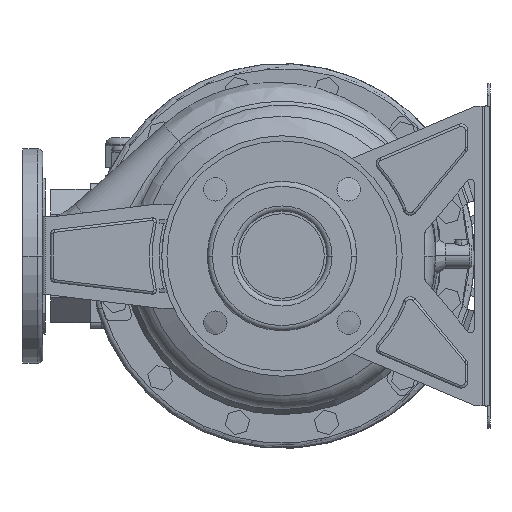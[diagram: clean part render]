
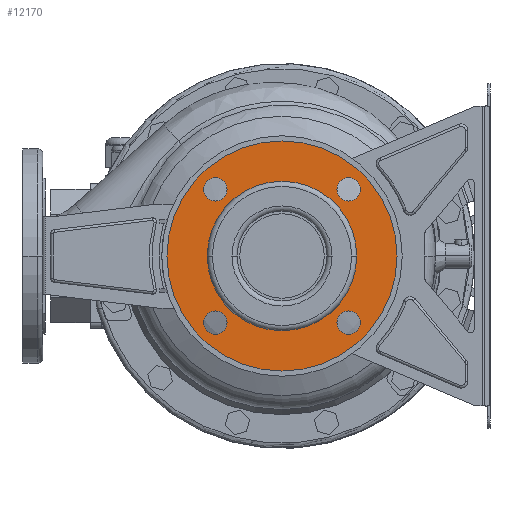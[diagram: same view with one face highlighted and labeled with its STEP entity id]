
A CAD part, left-side view. The second image highlights one B-rep face of the part: STEP entity #12170.
In plain terms, the highlighted planar face has unit normal (-1, 0, 0).
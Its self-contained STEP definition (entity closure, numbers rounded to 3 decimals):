
#11487=CARTESIAN_POINT('',(12.,0.,0.));
#11488=DIRECTION('',(1.,0.,0.));
#11489=DIRECTION('',(0.,-1.,0.));
#11490=AXIS2_PLACEMENT_3D('',#11487,#11488,#11489);
#11495=CARTESIAN_POINT('',(12.,0.,0.));
#11496=DIRECTION('',(1.,0.,0.));
#11497=DIRECTION('',(0.,1.,0.));
#11498=AXIS2_PLACEMENT_3D('',#11495,#11496,#11497);
#11503=CARTESIAN_POINT('',(12.,0.,0.));
#11504=DIRECTION('',(-1.,0.,0.));
#11505=DIRECTION('',(0.,-1.,0.));
#11506=AXIS2_PLACEMENT_3D('',#11503,#11504,#11505);
#11511=CARTESIAN_POINT('',(12.,0.,0.));
#11512=DIRECTION('',(-1.,0.,0.));
#11513=DIRECTION('',(0.,1.,0.));
#11514=AXIS2_PLACEMENT_3D('',#11511,#11512,#11513);
#11519=CARTESIAN_POINT('',(12.,-51.265,51.265));
#11520=DIRECTION('',(-1.,0.,0.));
#11521=DIRECTION('',(0.,-1.,0.));
#11522=AXIS2_PLACEMENT_3D('',#11519,#11520,#11521);
#11527=CARTESIAN_POINT('',(12.,-51.265,51.265));
#11528=DIRECTION('',(-1.,0.,0.));
#11529=DIRECTION('',(0.,1.,0.));
#11530=AXIS2_PLACEMENT_3D('',#11527,#11528,#11529);
#11535=CARTESIAN_POINT('',(12.,-51.265,-51.265));
#11536=DIRECTION('',(-1.,0.,0.));
#11537=DIRECTION('',(0.,0.,-1.));
#11538=AXIS2_PLACEMENT_3D('',#11535,#11536,#11537);
#11543=CARTESIAN_POINT('',(12.,-51.265,-51.265));
#11544=DIRECTION('',(-1.,0.,0.));
#11545=DIRECTION('',(0.,0.,1.));
#11546=AXIS2_PLACEMENT_3D('',#11543,#11544,#11545);
#11551=CARTESIAN_POINT('',(12.,51.265,-51.265));
#11552=DIRECTION('',(-1.,0.,0.));
#11553=DIRECTION('',(0.,1.,0.));
#11554=AXIS2_PLACEMENT_3D('',#11551,#11552,#11553);
#11559=CARTESIAN_POINT('',(12.,51.265,-51.265));
#11560=DIRECTION('',(-1.,0.,0.));
#11561=DIRECTION('',(0.,-1.,0.));
#11562=AXIS2_PLACEMENT_3D('',#11559,#11560,#11561);
#11567=CARTESIAN_POINT('',(12.,51.265,51.265));
#11568=DIRECTION('',(-1.,0.,0.));
#11569=DIRECTION('',(0.,0.,1.));
#11570=AXIS2_PLACEMENT_3D('',#11567,#11568,#11569);
#11575=CARTESIAN_POINT('',(12.,51.265,51.265));
#11576=DIRECTION('',(-1.,0.,0.));
#11577=DIRECTION('',(0.,0.,-1.));
#11578=AXIS2_PLACEMENT_3D('',#11575,#11576,#11577);
#11809=CARTESIAN_POINT('',(12.,88.5,0.));
#11810=VERTEX_POINT('',#11809);
#11811=CARTESIAN_POINT('',(12.,-88.5,0.));
#11812=VERTEX_POINT('',#11811);
#11813=CARTESIAN_POINT('',(12.,-57.5,0.));
#11814=CARTESIAN_POINT('',(12.,57.5,0.));
#11815=VERTEX_POINT('',#11813);
#11816=VERTEX_POINT('',#11814);
#11817=CARTESIAN_POINT('',(12.,-60.265,51.265));
#11818=CARTESIAN_POINT('',(12.,-42.265,51.265));
#11819=VERTEX_POINT('',#11817);
#11820=VERTEX_POINT('',#11818);
#11821=CARTESIAN_POINT('',(12.,-51.265,-60.265));
#11822=CARTESIAN_POINT('',(12.,-51.265,-42.265));
#11823=VERTEX_POINT('',#11821);
#11824=VERTEX_POINT('',#11822);
#11825=CARTESIAN_POINT('',(12.,60.265,-51.265));
#11826=CARTESIAN_POINT('',(12.,42.265,-51.265));
#11827=VERTEX_POINT('',#11825);
#11828=VERTEX_POINT('',#11826);
#11829=CARTESIAN_POINT('',(12.,51.265,60.265));
#11830=CARTESIAN_POINT('',(12.,51.265,42.265));
#11831=VERTEX_POINT('',#11829);
#11832=VERTEX_POINT('',#11830);
#12131=CARTESIAN_POINT('',(12.,0.,0.));
#12132=DIRECTION('',(1.,0.,0.));
#12133=DIRECTION('',(0.,-1.,0.));
#12134=AXIS2_PLACEMENT_3D('',#12131,#12132,#12133);
#12135=PLANE('',#12134);
#12136=ORIENTED_EDGE('',*,*,#12124,.T.);
#12137=ORIENTED_EDGE('',*,*,#12113,.T.);
#12138=EDGE_LOOP('',(#12136,#12137));
#12139=FACE_OUTER_BOUND('',#12138,.F.);
#12141=ORIENTED_EDGE('',*,*,#12140,.T.);
#12143=ORIENTED_EDGE('',*,*,#12142,.T.);
#12144=EDGE_LOOP('',(#12141,#12143));
#12145=FACE_BOUND('',#12144,.F.);
#12147=ORIENTED_EDGE('',*,*,#12146,.T.);
#12149=ORIENTED_EDGE('',*,*,#12148,.T.);
#12150=EDGE_LOOP('',(#12147,#12149));
#12151=FACE_BOUND('',#12150,.F.);
#12153=ORIENTED_EDGE('',*,*,#12152,.T.);
#12155=ORIENTED_EDGE('',*,*,#12154,.T.);
#12156=EDGE_LOOP('',(#12153,#12155));
#12157=FACE_BOUND('',#12156,.F.);
#12159=ORIENTED_EDGE('',*,*,#12158,.T.);
#12161=ORIENTED_EDGE('',*,*,#12160,.T.);
#12162=EDGE_LOOP('',(#12159,#12161));
#12163=FACE_BOUND('',#12162,.F.);
#12165=ORIENTED_EDGE('',*,*,#12164,.T.);
#12167=ORIENTED_EDGE('',*,*,#12166,.T.);
#12168=EDGE_LOOP('',(#12165,#12167));
#12169=FACE_BOUND('',#12168,.F.);
#11491=CIRCLE('',#11490,88.5);
#11499=CIRCLE('',#11498,88.5);
#11507=CIRCLE('',#11506,57.5);
#11515=CIRCLE('',#11514,57.5);
#11523=CIRCLE('',#11522,9.);
#11531=CIRCLE('',#11530,9.);
#11539=CIRCLE('',#11538,9.);
#11547=CIRCLE('',#11546,9.);
#11555=CIRCLE('',#11554,9.);
#11563=CIRCLE('',#11562,9.);
#11571=CIRCLE('',#11570,9.);
#11579=CIRCLE('',#11578,9.);
#12113=EDGE_CURVE('',#11810,#11812,#11499,.T.);
#12124=EDGE_CURVE('',#11812,#11810,#11491,.T.);
#12140=EDGE_CURVE('',#11815,#11816,#11507,.T.);
#12142=EDGE_CURVE('',#11816,#11815,#11515,.T.);
#12146=EDGE_CURVE('',#11819,#11820,#11523,.T.);
#12148=EDGE_CURVE('',#11820,#11819,#11531,.T.);
#12152=EDGE_CURVE('',#11823,#11824,#11539,.T.);
#12154=EDGE_CURVE('',#11824,#11823,#11547,.T.);
#12158=EDGE_CURVE('',#11827,#11828,#11555,.T.);
#12160=EDGE_CURVE('',#11828,#11827,#11563,.T.);
#12164=EDGE_CURVE('',#11831,#11832,#11571,.T.);
#12166=EDGE_CURVE('',#11832,#11831,#11579,.T.);
#12170=ADVANCED_FACE('',(#12139,#12145,#12151,#12157,#12163,#12169),#12135,.F.);
